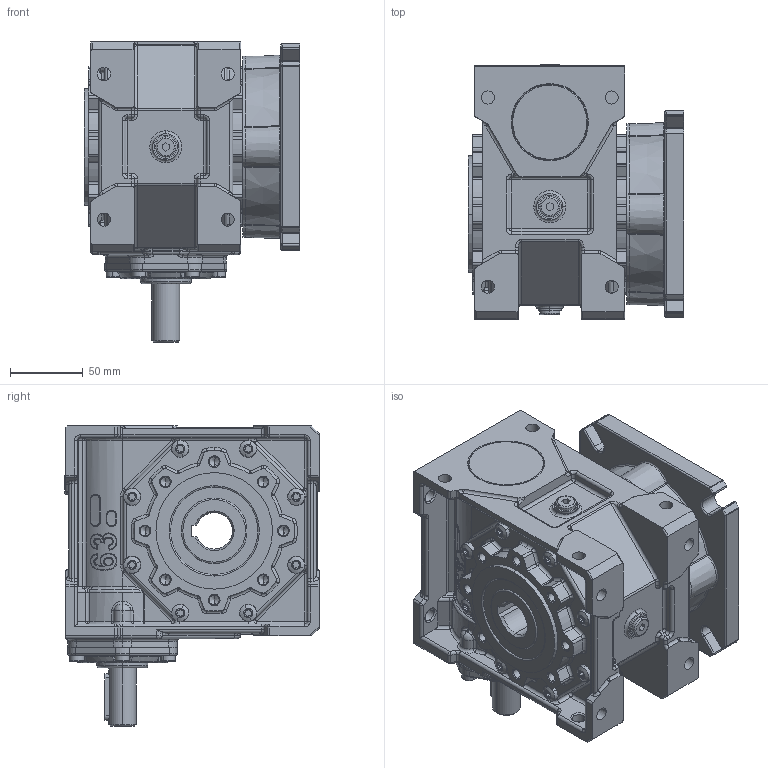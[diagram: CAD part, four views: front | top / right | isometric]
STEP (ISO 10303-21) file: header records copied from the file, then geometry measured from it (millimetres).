
FILE_DESCRIPTION (( 'STEP AP214' ), '1' );
FILE_NAME ('MKT63-FFL-SolidShaft.STEP', '2006-05-09T07:36:22', ( '' ), ( '' ), 'SwSTEP 2.0', 'SolidWorks 2004146', '' );
FILE_SCHEMA (( 'AUTOMOTIVE_DESIGN' ));
Length unit declared in the file: millimetre
Products named in the file (6): MKT63-FFL-SolidShaft; Skrin MKT63_MKT63 SolidShaft ; D6912_Šroub DIN 6912 - M6x25; Víèko MKT63_Výchozí; Pøíruba FF MKT 63_odlitek; D6912_Šroub DIN 6912 - M8x25
Assembly tree (13 placements, depth 2):
  MKT63-FFL-SolidShaft
    D6912_Šroub DIN 6912 - M6x25  x6
    D6912_Šroub DIN 6912 - M8x25  x4
    Skrin MKT63_MKT63 SolidShaft 
    Víèko MKT63_Výchozí
    Pøíruba FF MKT 63_odlitek
Bounding box: 148 x 174.5 x 206 mm (x, y, z)
Volume: 2229241.4 mm3; surface area: 265235.1 mm2
Topology: 13 solids, 13 shells, 2589 faces, 6076 edges, 3492 vertices
Faces by surface type: cylinder 979, plane 479, torus 453, cone 261, bspline 247, sphere 170
Entity records: 211434 total; most frequent: CARTESIAN_POINT 154527, DIRECTION 11766, ORIENTED_EDGE 10814, EDGE_CURVE 5407, AXIS2_PLACEMENT_3D 4963, VERTEX_POINT 3220, CIRCLE 2901, EDGE_LOOP 2443
